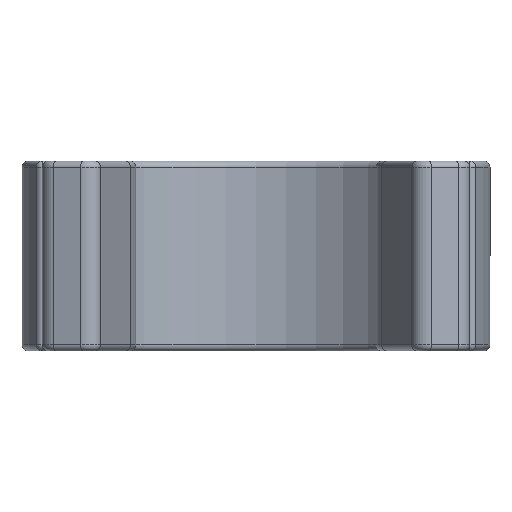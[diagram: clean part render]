
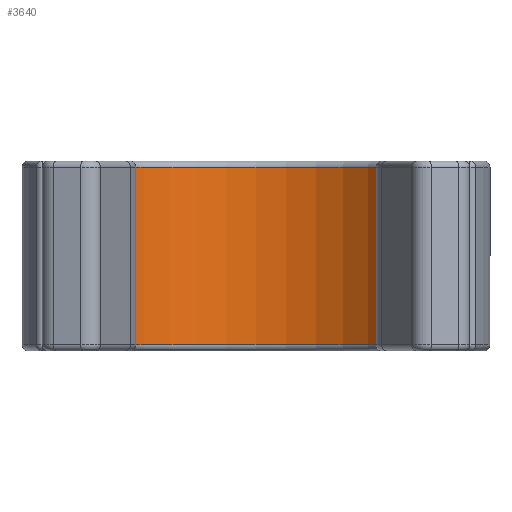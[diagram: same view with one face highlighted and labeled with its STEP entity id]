
A CAD part, front view. The second image highlights one B-rep face of the part: STEP entity #3640.
In plain terms, the highlighted cylindrical face has radius 5.5 mm (diameter 11 mm), a partial arc.
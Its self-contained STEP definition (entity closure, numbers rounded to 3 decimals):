
#4 = ORIENTED_EDGE ( 'NONE', *, *, #1670, .F. ) ;
#57 = CARTESIAN_POINT ( 'NONE',  ( 0., 0., -2.8 ) ) ;
#76 = DIRECTION ( 'NONE',  ( -1., 0., 0. ) ) ;
#139 = EDGE_CURVE ( 'NONE', #5121, #2012, #1628, .T. ) ;
#242 = VERTEX_POINT ( 'NONE', #3308 ) ;
#386 = CARTESIAN_POINT ( 'NONE',  ( -5.5, 0., -2.8 ) ) ;
#460 = EDGE_LOOP ( 'NONE', ( #4, #2042, #1660, #1854 ) ) ;
#678 = VERTEX_POINT ( 'NONE', #2918 ) ;
#922 = FACE_OUTER_BOUND ( 'NONE', #460, .T. ) ;
#1200 = DIRECTION ( 'NONE',  ( 0., 0., -1. ) ) ;
#1275 = DIRECTION ( 'NONE',  ( 0., 0., -1. ) ) ;
#1628 = CIRCLE ( 'NONE', #2176, 5.5 ) ;
#1660 = ORIENTED_EDGE ( 'NONE', *, *, #4394, .T. ) ;
#1670 = EDGE_CURVE ( 'NONE', #242, #2012, #5250, .T. ) ;
#1825 = DIRECTION ( 'NONE',  ( -1., 0., 0. ) ) ;
#1829 = CARTESIAN_POINT ( 'NONE',  ( 0., 0., 2.8 ) ) ;
#1854 = ORIENTED_EDGE ( 'NONE', *, *, #139, .T. ) ;
#1892 = CARTESIAN_POINT ( 'NONE',  ( 5.5, 0., -2.8 ) ) ;
#2012 = VERTEX_POINT ( 'NONE', #1892 ) ;
#2042 = ORIENTED_EDGE ( 'NONE', *, *, #3093, .T. ) ;
#2176 = AXIS2_PLACEMENT_3D ( 'NONE', #57, #1275, #1825 ) ;
#2194 = CYLINDRICAL_SURFACE ( 'NONE', #5898, 5.5 ) ;
#2373 = DIRECTION ( 'NONE',  ( -1., 0., 0. ) ) ;
#2553 = VECTOR ( 'NONE', #5902, 1000. ) ;
#2918 = CARTESIAN_POINT ( 'NONE',  ( -5.5, 0., 2.8 ) ) ;
#3093 = EDGE_CURVE ( 'NONE', #242, #678, #5857, .T. ) ;
#3308 = CARTESIAN_POINT ( 'NONE',  ( 5.5, 0., 2.8 ) ) ;
#3390 = AXIS2_PLACEMENT_3D ( 'NONE', #1829, #5616, #2373 ) ;
#3640 = ADVANCED_FACE ( 'NONE', ( #922 ), #2194, .F. ) ;
#4106 = DIRECTION ( 'NONE',  ( 0., 0., -1. ) ) ;
#4283 = CARTESIAN_POINT ( 'NONE',  ( 5.5, 0., 3. ) ) ;
#4394 = EDGE_CURVE ( 'NONE', #678, #5121, #6250, .T. ) ;
#4632 = CARTESIAN_POINT ( 'NONE',  ( -5.5, 0., 3. ) ) ;
#4985 = CARTESIAN_POINT ( 'NONE',  ( 0., 0., 3. ) ) ;
#5121 = VERTEX_POINT ( 'NONE', #386 ) ;
#5250 = LINE ( 'NONE', #4283, #2553 ) ;
#5616 = DIRECTION ( 'NONE',  ( 0., 0., 1. ) ) ;
#5857 = CIRCLE ( 'NONE', #3390, 5.5 ) ;
#5898 = AXIS2_PLACEMENT_3D ( 'NONE', #4985, #1200, #76 ) ;
#5902 = DIRECTION ( 'NONE',  ( 0., 0., -1. ) ) ;
#6083 = VECTOR ( 'NONE', #4106, 1000. ) ;
#6250 = LINE ( 'NONE', #4632, #6083 ) ;
